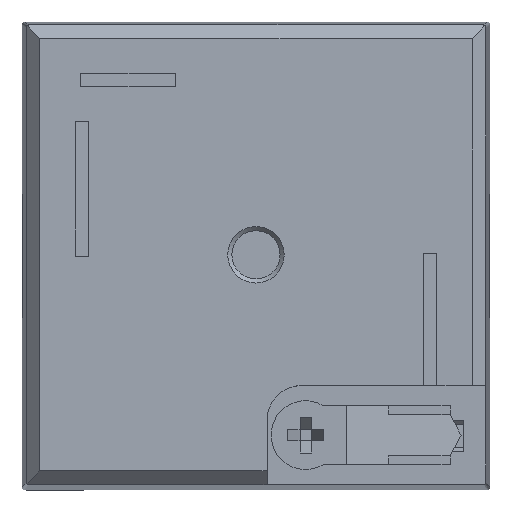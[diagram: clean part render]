
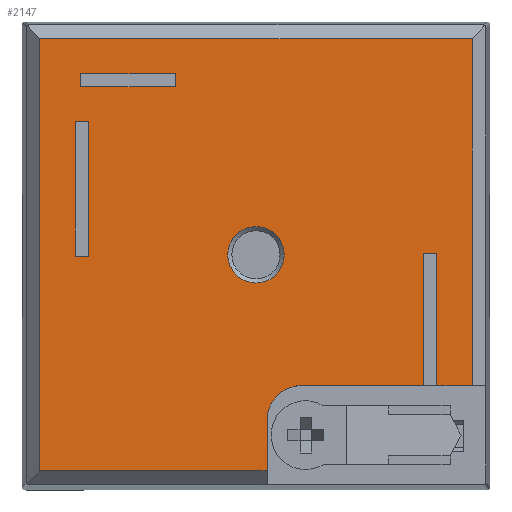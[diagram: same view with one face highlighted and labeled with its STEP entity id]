
A CAD part, top view. The second image highlights one B-rep face of the part: STEP entity #2147.
In plain terms, the highlighted planar face has unit normal (0, 0, 1).
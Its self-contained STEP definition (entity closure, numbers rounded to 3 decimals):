
#149=LINE('',#10952,#956);
#150=LINE('',#10955,#957);
#151=LINE('',#10957,#958);
#152=LINE('',#10959,#959);
#153=LINE('',#10962,#960);
#154=LINE('',#10965,#961);
#155=LINE('',#10967,#962);
#156=LINE('',#10969,#963);
#157=LINE('',#10970,#964);
#158=LINE('',#10973,#965);
#159=LINE('',#10975,#966);
#160=LINE('',#10977,#967);
#161=LINE('',#10979,#968);
#162=LINE('',#10981,#969);
#163=LINE('',#10983,#970);
#164=LINE('',#10987,#971);
#165=LINE('',#10989,#972);
#166=LINE('',#10991,#973);
#956=VECTOR('',#8781,1.);
#957=VECTOR('',#8782,1.);
#958=VECTOR('',#8783,1.);
#959=VECTOR('',#8784,1.);
#960=VECTOR('',#8787,1.);
#961=VECTOR('',#8788,1.);
#962=VECTOR('',#8789,1.);
#963=VECTOR('',#8790,1.);
#964=VECTOR('',#8791,1.);
#965=VECTOR('',#8792,1.);
#966=VECTOR('',#8793,1.);
#967=VECTOR('',#8794,1.);
#968=VECTOR('',#8795,1.);
#969=VECTOR('',#8796,1.);
#970=VECTOR('',#8797,1.);
#971=VECTOR('',#8800,1.);
#972=VECTOR('',#8801,1.);
#973=VECTOR('',#8802,1.);
#1933=FACE_BOUND('',#3340,.T.);
#1934=FACE_BOUND('',#3341,.T.);
#1935=FACE_BOUND('',#3342,.T.);
#1936=FACE_BOUND('',#3343,.T.);
#2147=ADVANCED_FACE('',(#1933,#1934,#1935,#1936),#2601,.F.);
#2601=PLANE('',#8035);
#3340=EDGE_LOOP('',(#3933,#3934,#3935,#3936));
#3341=EDGE_LOOP('',(#3937));
#3342=EDGE_LOOP('',(#3938,#3939,#3940,#3941));
#3343=EDGE_LOOP('',(#3942,#3943,#3944,#3945,#3946,#3947,#3948,#3949,#3950,
#3951,#3952));
#3933=ORIENTED_EDGE('',*,*,#6743,.F.);
#3934=ORIENTED_EDGE('',*,*,#6744,.F.);
#3935=ORIENTED_EDGE('',*,*,#6745,.F.);
#3936=ORIENTED_EDGE('',*,*,#6746,.F.);
#3937=ORIENTED_EDGE('',*,*,#6747,.T.);
#3938=ORIENTED_EDGE('',*,*,#6748,.F.);
#3939=ORIENTED_EDGE('',*,*,#6749,.F.);
#3940=ORIENTED_EDGE('',*,*,#6750,.F.);
#3941=ORIENTED_EDGE('',*,*,#6751,.F.);
#3942=ORIENTED_EDGE('',*,*,#6752,.F.);
#3943=ORIENTED_EDGE('',*,*,#6753,.F.);
#3944=ORIENTED_EDGE('',*,*,#6754,.T.);
#3945=ORIENTED_EDGE('',*,*,#6755,.T.);
#3946=ORIENTED_EDGE('',*,*,#6756,.T.);
#3947=ORIENTED_EDGE('',*,*,#6757,.T.);
#3948=ORIENTED_EDGE('',*,*,#6758,.F.);
#3949=ORIENTED_EDGE('',*,*,#6759,.T.);
#3950=ORIENTED_EDGE('',*,*,#6760,.F.);
#3951=ORIENTED_EDGE('',*,*,#6761,.F.);
#3952=ORIENTED_EDGE('',*,*,#6762,.F.);
#6030=VERTEX_POINT('',#10953);
#6031=VERTEX_POINT('',#10954);
#6032=VERTEX_POINT('',#10956);
#6033=VERTEX_POINT('',#10958);
#6034=VERTEX_POINT('',#10961);
#6035=VERTEX_POINT('',#10963);
#6036=VERTEX_POINT('',#10964);
#6037=VERTEX_POINT('',#10966);
#6038=VERTEX_POINT('',#10968);
#6039=VERTEX_POINT('',#10971);
#6040=VERTEX_POINT('',#10972);
#6041=VERTEX_POINT('',#10974);
#6042=VERTEX_POINT('',#10976);
#6043=VERTEX_POINT('',#10978);
#6044=VERTEX_POINT('',#10980);
#6045=VERTEX_POINT('',#10982);
#6046=VERTEX_POINT('',#10984);
#6047=VERTEX_POINT('',#10986);
#6048=VERTEX_POINT('',#10988);
#6049=VERTEX_POINT('',#10990);
#6743=EDGE_CURVE('',#6030,#6031,#149,.T.);
#6744=EDGE_CURVE('',#6032,#6030,#150,.T.);
#6745=EDGE_CURVE('',#6033,#6032,#151,.T.);
#6746=EDGE_CURVE('',#6031,#6033,#152,.T.);
#6747=EDGE_CURVE('',#6034,#6034,#7796,.T.);
#6748=EDGE_CURVE('',#6035,#6036,#153,.T.);
#6749=EDGE_CURVE('',#6037,#6035,#154,.T.);
#6750=EDGE_CURVE('',#6038,#6037,#155,.T.);
#6751=EDGE_CURVE('',#6036,#6038,#156,.T.);
#6752=EDGE_CURVE('',#6039,#6040,#157,.T.);
#6753=EDGE_CURVE('',#6041,#6039,#158,.T.);
#6754=EDGE_CURVE('',#6041,#6042,#159,.T.);
#6755=EDGE_CURVE('',#6042,#6043,#160,.T.);
#6756=EDGE_CURVE('',#6043,#6044,#161,.T.);
#6757=EDGE_CURVE('',#6044,#6045,#162,.T.);
#6758=EDGE_CURVE('',#6046,#6045,#163,.T.);
#6759=EDGE_CURVE('',#6046,#6047,#7797,.T.);
#6760=EDGE_CURVE('',#6048,#6047,#164,.T.);
#6761=EDGE_CURVE('',#6049,#6048,#165,.T.);
#6762=EDGE_CURVE('',#6040,#6049,#166,.T.);
#7796=CIRCLE('',#8033,2.05);
#7797=CIRCLE('',#8034,2.5);
#8033=AXIS2_PLACEMENT_3D('',#10960,#8785,#8786);
#8034=AXIS2_PLACEMENT_3D('',#10985,#8798,#8799);
#8035=AXIS2_PLACEMENT_3D('',#10992,#8803,#8804);
#8781=DIRECTION('',(0.,1.,0.));
#8782=DIRECTION('',(1.,0.,0.));
#8783=DIRECTION('',(0.,-1.,0.));
#8784=DIRECTION('',(-1.,0.,0.));
#8785=DIRECTION('',(0.,0.,-1.));
#8786=DIRECTION('',(1.,0.,0.));
#8787=DIRECTION('',(-1.,0.,0.));
#8788=DIRECTION('',(0.,1.,0.));
#8789=DIRECTION('',(1.,0.,0.));
#8790=DIRECTION('',(0.,-1.,0.));
#8791=DIRECTION('',(0.,1.,0.));
#8792=DIRECTION('',(-1.,0.,0.));
#8793=DIRECTION('',(0.,1.,0.));
#8794=DIRECTION('',(-1.,0.,0.));
#8795=DIRECTION('',(0.,-1.,0.));
#8796=DIRECTION('',(1.,0.,0.));
#8797=DIRECTION('',(0.,-1.,0.));
#8798=DIRECTION('',(0.,0.,-1.));
#8799=DIRECTION('',(1.,0.,0.));
#8800=DIRECTION('',(-1.,0.,0.));
#8801=DIRECTION('',(0.,-1.,0.));
#8802=DIRECTION('',(-1.,0.,0.));
#8803=DIRECTION('',(0.,0.,-1.));
#8804=DIRECTION('',(1.,0.,0.));
#10952=CARTESIAN_POINT('',(3.3,14.95,41.75));
#10953=CARTESIAN_POINT('',(3.3,14.95,41.75));
#10954=CARTESIAN_POINT('',(3.3,24.75,41.75));
#10955=CARTESIAN_POINT('',(2.35,14.95,41.75));
#10956=CARTESIAN_POINT('',(2.35,14.95,41.75));
#10957=CARTESIAN_POINT('',(2.35,24.75,41.75));
#10958=CARTESIAN_POINT('',(2.35,24.75,41.75));
#10959=CARTESIAN_POINT('',(3.3,24.75,41.75));
#10960=CARTESIAN_POINT('',(15.5,15.05,41.75));
#10961=CARTESIAN_POINT('',(17.55,15.05,41.75));
#10962=CARTESIAN_POINT('',(9.65,28.2,41.75));
#10963=CARTESIAN_POINT('',(9.65,28.2,41.75));
#10964=CARTESIAN_POINT('',(2.75,28.2,41.75));
#10965=CARTESIAN_POINT('',(9.65,27.25,41.75));
#10966=CARTESIAN_POINT('',(9.65,27.25,41.75));
#10967=CARTESIAN_POINT('',(2.75,27.25,41.75));
#10968=CARTESIAN_POINT('',(2.75,27.25,41.75));
#10969=CARTESIAN_POINT('',(2.75,28.2,41.75));
#10970=CARTESIAN_POINT('',(28.65,5.55,41.75));
#10971=CARTESIAN_POINT('',(28.65,5.55,41.75));
#10972=CARTESIAN_POINT('',(28.65,15.15,41.75));
#10973=CARTESIAN_POINT('',(3.6,5.55,41.75));
#10974=CARTESIAN_POINT('',(31.2,5.55,41.75));
#10975=CARTESIAN_POINT('',(31.2,-2.95,41.75));
#10976=CARTESIAN_POINT('',(31.2,30.75,41.75));
#10977=CARTESIAN_POINT('',(4.6,30.75,41.75));
#10978=CARTESIAN_POINT('',(-0.2,30.75,41.75));
#10979=CARTESIAN_POINT('',(-0.2,-2.95,41.75));
#10980=CARTESIAN_POINT('',(-0.2,-0.65,41.75));
#10981=CARTESIAN_POINT('',(4.6,-0.65,41.75));
#10982=CARTESIAN_POINT('',(16.3,-0.65,41.75));
#10983=CARTESIAN_POINT('',(16.3,-2.95,41.75));
#10984=CARTESIAN_POINT('',(16.3,3.05,41.75));
#10985=CARTESIAN_POINT('',(18.8,3.05,41.75));
#10986=CARTESIAN_POINT('',(18.8,5.55,41.75));
#10987=CARTESIAN_POINT('',(3.6,5.55,41.75));
#10988=CARTESIAN_POINT('',(27.7,5.55,41.75));
#10989=CARTESIAN_POINT('',(27.7,15.15,41.75));
#10990=CARTESIAN_POINT('',(27.7,15.15,41.75));
#10991=CARTESIAN_POINT('',(28.65,15.15,41.75));
#10992=CARTESIAN_POINT('',(4.6,-2.95,41.75));
